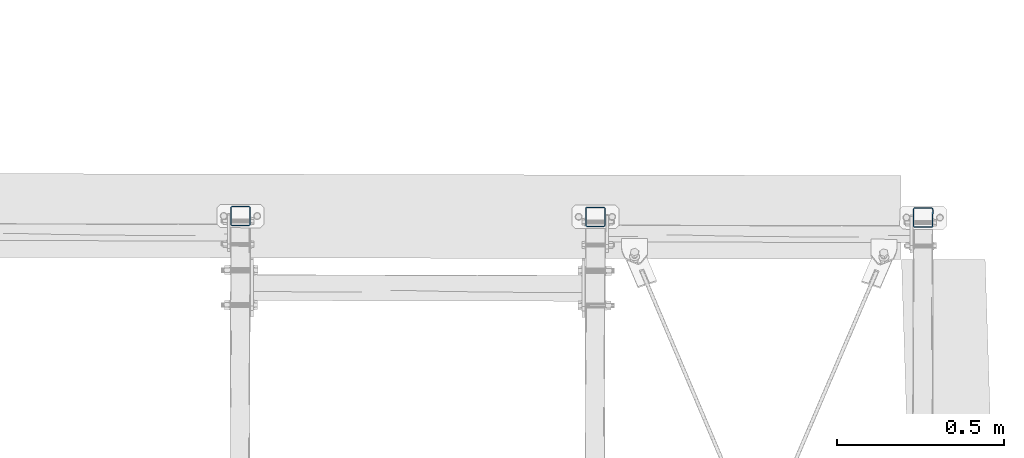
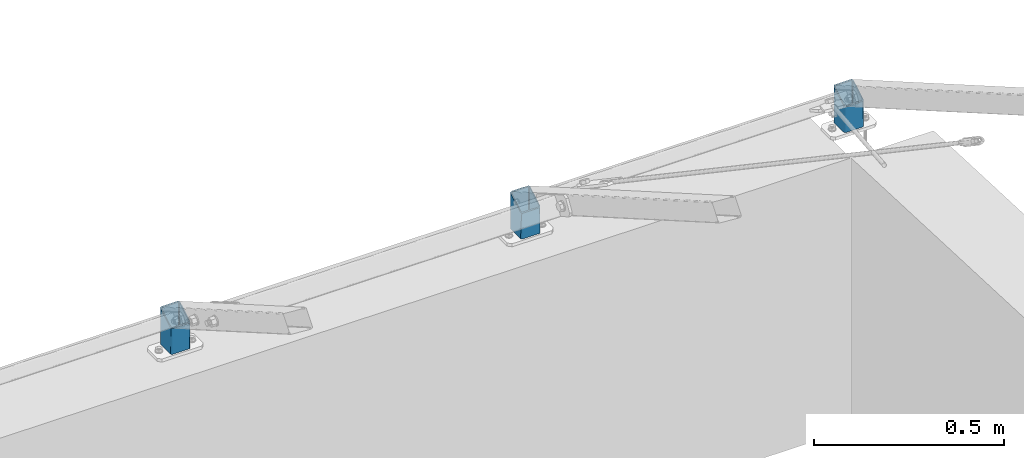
# One storey, part 7 of 288: 3 columns.
"""IFC2X3 building model written with IfcOpenShell, lengths in millimetres."""

from ifc_helpers import new_model, entity, si_unit, converted_unit, frame, origin, origin_with_axes, origin_2d, place, context, project, spatial, hollow_rectangle, extrude, clip, halfspace, material, element, save


model = new_model("IFC2X3")

# Units and contexts
model_context = context("Model", 3, precision=1e-09, world=origin_with_axes())
ifc_project = project(units=[si_unit("LENGTHUNIT", "METRE", prefix="MILLI"), si_unit("AREAUNIT", "SQUARE_METRE"), si_unit("VOLUMEUNIT", "CUBIC_METRE"), converted_unit("PLANEANGLEUNIT", "DEGREE", entity("IfcPlaneAngleMeasure", 0.01745329), si_unit("PLANEANGLEUNIT", "RADIAN"), dimensions=[0, 0, 0, 0, 0, 0, 0])], contexts=[model_context])

# Site, building, storey
site_placement = place(None, origin_with_axes())
site = spatial("IfcSite", under=ifc_project, at=site_placement, Name="Remont ?wietlik?w nad MC w NCPP w Opolu", CompositionType="ELEMENT")
building_placement = place(site_placement, origin_with_axes())
building = spatial("IfcBuilding", under=site, at=building_placement, Name="Konstrukcja 1", CompositionType="ELEMENT")
storey_placement = place(building_placement, origin_with_axes())
storey = spatial("IfcBuildingStorey", under=building, at=storey_placement, Name="Default Storey", CompositionType="ELEMENT", Elevation=0.0)

# Columns
ifc_material = material(Name="S235")
column_1_placement = place(None, frame((9059.7308919, 1864.336542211, -42.426406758), z_axis=(0.0, 0.0, -1.0), x_axis=(0.002261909, 0.999997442, 0.0)))
element("IfcColumn", 1, at=column_1_placement, inside=storey, material=ifc_material, Name="Horizontal_Beam", ObjectType="Horizontal_Beam", context=model_context, shape_type="Clipping", body=[
    clip(clip(extrude(hollow_rectangle(XDim=60.0, YDim=60.0, WallThickness=3.0, InnerFilletRadius=3.0, OuterFilletRadius=6.0, at=origin_2d()), origin(), (0.0, 0.0, -1.0), 201.083915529), halfspace(frame((-1461.104392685, -9055.490652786, 691.477465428), z_axis=(0.500000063, 1.22e-07, 0.866025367), x_axis=(2.44e-07, -1.0, 0.0)), True)), halfspace(frame((-1884.824061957, -9055.490755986, -52.427406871), z_axis=(0.0, 0.0, -1.0), x_axis=(0.002261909, 0.999997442, 0.0)), True)),
])
column_2_placement = place(None, frame((10119.728180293, 1861.938918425, -42.426406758), z_axis=(0.0, 0.0, -1.0), x_axis=(0.002261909, 0.999997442, 0.0)))
element("IfcColumn", 2, at=column_2_placement, inside=storey, material=ifc_material, Name="Horizontal_Beam", ObjectType="Horizontal_Beam", context=model_context, shape_type="Clipping", body=[
    clip(clip(extrude(hollow_rectangle(XDim=60.0, YDim=60.0, WallThickness=3.0, InnerFilletRadius=3.0, OuterFilletRadius=6.0, at=origin_2d()), origin(), (0.0, 0.0, -1.0), 201.083915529), halfspace(frame((-1461.104328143, -10115.490652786, 691.477577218), z_axis=(0.500000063, 1.22e-07, 0.866025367), x_axis=(2.44e-07, -1.0, 0.0)), True)), halfspace(frame((-1884.824061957, -10115.490755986, -52.427406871), z_axis=(0.0, 0.0, -1.0), x_axis=(0.002261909, 0.999997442, 0.0)), True)),
])
column_3_placement = place(None, frame((11098.639990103, 1859.739998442, -42.426406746), z_axis=(0.0, 0.0, -1.0), x_axis=(0.002261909, 0.999997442, 0.0)))
element("IfcColumn", 3, at=column_3_placement, inside=storey, material=ifc_material, Name="Horizontal_Beam", ObjectType="Horizontal_Beam", context=model_context, shape_type="Clipping", body=[
    clip(clip(extrude(hollow_rectangle(XDim=60.0, YDim=60.0, WallThickness=3.0, InnerFilletRadius=3.0, OuterFilletRadius=6.0, at=origin_2d()), origin(), (0.0, 0.0, -1.0), 201.083915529), halfspace(frame((-1461.115740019, -11094.404932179, 691.48430352), z_axis=(0.500000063, 1.22e-07, 0.866025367), x_axis=(2.44e-07, -1.0, 0.0)), True)), halfspace(frame((-1884.839357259, -11094.405035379, -52.427406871), z_axis=(0.0, 0.0, -1.0), x_axis=(0.002261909, 0.999997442, 0.0)), True)),
])

save(model, "model.ifc")
